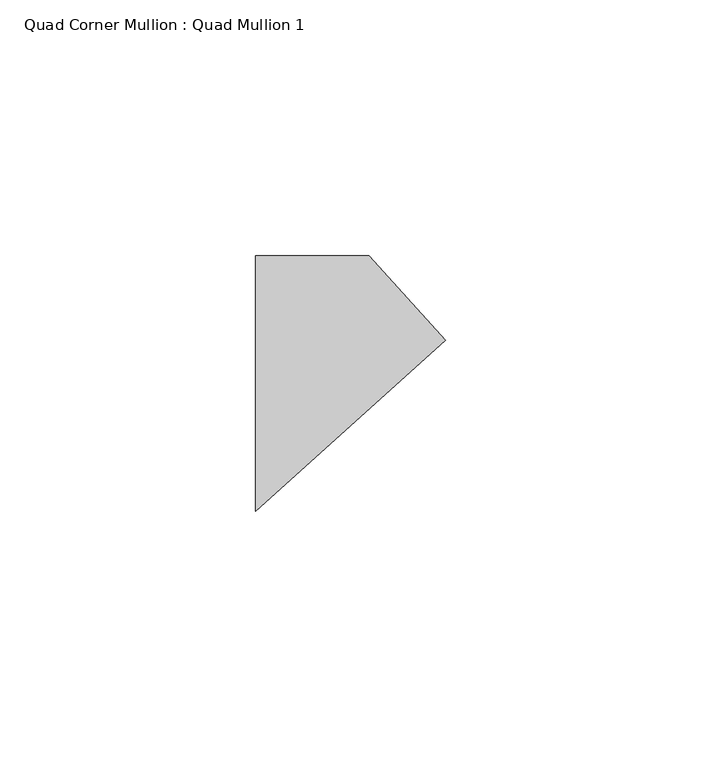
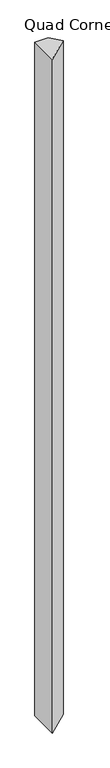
"""IFC4 building model written with IfcOpenShell, lengths in millimetres: member geometry, Quad Corner Mullion : Quad Mullion 1."""

from ifc_helpers import new_model, si_unit, frame, origin, place, context, project, spatial, polyline, outline, extrude, source, transform, mapped, element, save


def quad_corner_mullion_quad_mullion_1_dc36010d(model_context):
    return source(origin(), model_context, "Body", "SweptSolid", [
        extrude(outline(polyline([(26.0265241, 8.4565303), (-11.1307171, -25.0), (-11.1307171, 25.0), (11.1307171, 25.0), (26.0265241, 8.4565303)])), frame((0.0, 0.0, -1180.0), z_axis=(0.0, 0.0, 1.0), x_axis=(1.0, 0.0, 0.0)), (0.0, 0.0, 1.0), 1180.0),
    ])


if __name__ == "__main__":
    model = new_model("IFC4")
    model_context = context("Model", 3, world=origin())
    ifc_project = project(units=[si_unit("LENGTHUNIT", "METRE", prefix="MILLI")], contexts=[model_context])
    site = spatial("IfcSite", under=ifc_project)
    building = spatial("IfcBuilding", under=site)
    placement = place(None, origin())
    quad_corner_mullion_quad_mullion_1_shape = quad_corner_mullion_quad_mullion_1_dc36010d(model_context)
    element("IfcMember", 1, ObjectType="Quad Corner Mullion : Quad Mullion 1", at=placement, inside=building, context=model_context, shape_type="MappedRepresentation", body=[
        mapped(quad_corner_mullion_quad_mullion_1_shape, transform((0.0, 0.0, 0.0), x_axis=(1.0, 0.0, 0.0), y_axis=(0.0, 1.0, 0.0), z_axis=(0.0, 0.0, 1.0))),
    ])
    save(model, "model.ifc")
